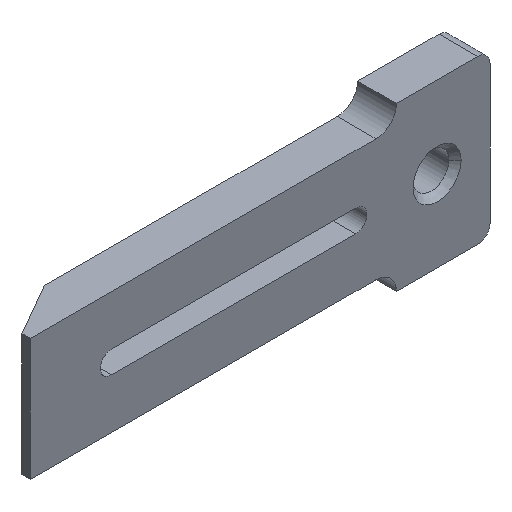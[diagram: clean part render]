
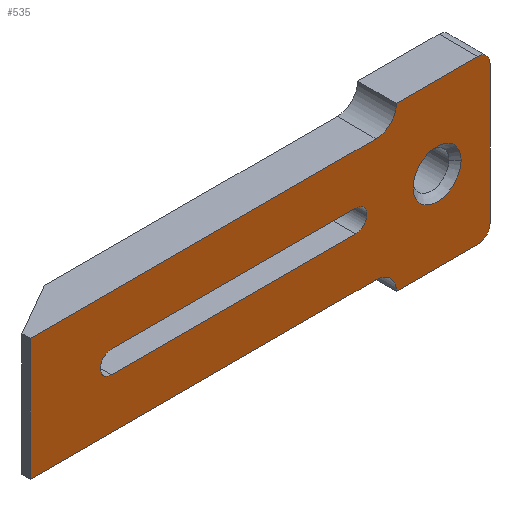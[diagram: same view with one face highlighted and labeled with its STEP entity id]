
A CAD part, isometric view. The second image highlights one B-rep face of the part: STEP entity #535.
In plain terms, the highlighted planar face has unit normal (0, -1, 0).
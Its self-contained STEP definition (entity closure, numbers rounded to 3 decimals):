
#16=CARTESIAN_POINT('',(20.,0.,0.));
#17=DIRECTION('',(0.,-1.,0.));
#18=DIRECTION('',(0.,0.,1.));
#19=AXIS2_PLACEMENT_3D('',#16,#17,#18);
#25=DIRECTION('',(1.,0.,0.));
#26=VECTOR('',#25,60.);
#27=CARTESIAN_POINT('',(20.,0.,-2.75));
#28=LINE('',#27,#26);
#32=CARTESIAN_POINT('',(80.,0.,0.));
#33=DIRECTION('',(0.,-1.,0.));
#34=DIRECTION('',(0.,0.,-1.));
#35=AXIS2_PLACEMENT_3D('',#32,#33,#34);
#40=DIRECTION('',(-1.,0.,0.));
#41=VECTOR('',#40,60.);
#42=CARTESIAN_POINT('',(80.,0.,2.75));
#43=LINE('',#42,#41);
#47=CARTESIAN_POINT('',(110.,0.,17.));
#48=DIRECTION('',(0.,-1.,0.));
#49=DIRECTION('',(1.,0.,0.));
#50=AXIS2_PLACEMENT_3D('',#47,#48,#49);
#55=CARTESIAN_POINT('',(110.,0.,-17.));
#56=DIRECTION('',(0.,-1.,0.));
#57=DIRECTION('',(0.,0.,-1.));
#58=AXIS2_PLACEMENT_3D('',#55,#56,#57);
#63=DIRECTION('',(-1.,0.,0.));
#64=VECTOR('',#63,20.);
#65=CARTESIAN_POINT('',(110.,0.,-20.));
#66=LINE('',#65,#64);
#70=DIRECTION('',(-1.,0.,0.));
#71=VECTOR('',#70,85.);
#72=CARTESIAN_POINT('',(85.,0.,-15.));
#73=LINE('',#72,#71);
#77=DIRECTION('',(0.,0.,1.));
#78=VECTOR('',#77,30.);
#79=CARTESIAN_POINT('',(0.,0.,-15.));
#80=LINE('',#79,#78);
#84=DIRECTION('',(1.,0.,0.));
#85=VECTOR('',#84,85.);
#86=CARTESIAN_POINT('',(0.,0.,15.));
#87=LINE('',#86,#85);
#91=DIRECTION('',(-1.,0.,0.));
#92=VECTOR('',#91,20.);
#93=CARTESIAN_POINT('',(110.,0.,20.));
#94=LINE('',#93,#92);
#98=CARTESIAN_POINT('',(100.,0.,0.));
#99=DIRECTION('',(0.,1.,0.));
#100=DIRECTION('',(1.,0.,0.));
#101=AXIS2_PLACEMENT_3D('',#98,#99,#100);
#106=CARTESIAN_POINT('',(100.,0.,0.));
#107=DIRECTION('',(0.,1.,0.));
#108=DIRECTION('',(-1.,0.,0.));
#109=AXIS2_PLACEMENT_3D('',#106,#107,#108);
#304=DIRECTION('',(0.,0.,1.));
#305=VECTOR('',#304,34.);
#306=CARTESIAN_POINT('',(113.,0.,-17.));
#307=LINE('',#306,#305);
#325=CARTESIAN_POINT('',(85.,0.,-20.));
#326=DIRECTION('',(0.,1.,0.));
#327=DIRECTION('',(0.,0.,1.));
#328=AXIS2_PLACEMENT_3D('',#325,#326,#327);
#384=CARTESIAN_POINT('',(85.,0.,20.));
#385=DIRECTION('',(0.,1.,0.));
#386=DIRECTION('',(1.,0.,0.));
#387=AXIS2_PLACEMENT_3D('',#384,#385,#386);
#420=CARTESIAN_POINT('',(0.,0.,-15.));
#421=CARTESIAN_POINT('',(0.,0.,15.));
#422=VERTEX_POINT('',#420);
#423=VERTEX_POINT('',#421);
#432=CARTESIAN_POINT('',(20.,0.,2.75));
#433=CARTESIAN_POINT('',(20.,0.,-2.75));
#434=VERTEX_POINT('',#432);
#435=VERTEX_POINT('',#433);
#436=CARTESIAN_POINT('',(80.,0.,-2.75));
#437=VERTEX_POINT('',#436);
#438=CARTESIAN_POINT('',(80.,0.,2.75));
#439=VERTEX_POINT('',#438);
#453=CARTESIAN_POINT('',(85.,0.,15.));
#455=VERTEX_POINT('',#453);
#456=CARTESIAN_POINT('',(85.,0.,-15.));
#458=VERTEX_POINT('',#456);
#462=CARTESIAN_POINT('',(90.,0.,20.));
#463=VERTEX_POINT('',#462);
#464=CARTESIAN_POINT('',(90.,0.,-20.));
#465=VERTEX_POINT('',#464);
#472=CARTESIAN_POINT('',(113.,0.,17.));
#473=VERTEX_POINT('',#472);
#474=CARTESIAN_POINT('',(110.,0.,20.));
#475=VERTEX_POINT('',#474);
#476=CARTESIAN_POINT('',(110.,0.,-20.));
#477=CARTESIAN_POINT('',(113.,0.,-17.));
#478=VERTEX_POINT('',#476);
#479=VERTEX_POINT('',#477);
#484=CARTESIAN_POINT('',(105.9,0.,0.));
#485=CARTESIAN_POINT('',(94.1,0.,0.));
#486=VERTEX_POINT('',#484);
#487=VERTEX_POINT('',#485);
#492=CARTESIAN_POINT('',(0.,0.,0.));
#493=DIRECTION('',(0.,1.,0.));
#494=DIRECTION('',(1.,0.,0.));
#495=AXIS2_PLACEMENT_3D('',#492,#493,#494);
#496=PLANE('',#495);
#498=ORIENTED_EDGE('',*,*,#497,.F.);
#500=ORIENTED_EDGE('',*,*,#499,.F.);
#502=ORIENTED_EDGE('',*,*,#501,.F.);
#504=ORIENTED_EDGE('',*,*,#503,.T.);
#506=ORIENTED_EDGE('',*,*,#505,.F.);
#508=ORIENTED_EDGE('',*,*,#507,.T.);
#510=ORIENTED_EDGE('',*,*,#509,.T.);
#512=ORIENTED_EDGE('',*,*,#511,.T.);
#514=ORIENTED_EDGE('',*,*,#513,.F.);
#516=ORIENTED_EDGE('',*,*,#515,.F.);
#517=EDGE_LOOP('',(#498,#500,#502,#504,#506,#508,#510,#512,#514,#516));
#518=FACE_OUTER_BOUND('',#517,.F.);
#520=ORIENTED_EDGE('',*,*,#519,.T.);
#522=ORIENTED_EDGE('',*,*,#521,.T.);
#524=ORIENTED_EDGE('',*,*,#523,.T.);
#526=ORIENTED_EDGE('',*,*,#525,.T.);
#527=EDGE_LOOP('',(#520,#522,#524,#526));
#528=FACE_BOUND('',#527,.F.);
#530=ORIENTED_EDGE('',*,*,#529,.F.);
#532=ORIENTED_EDGE('',*,*,#531,.F.);
#533=EDGE_LOOP('',(#530,#532));
#534=FACE_BOUND('',#533,.F.);
#535=ADVANCED_FACE('',(#518,#528,#534),#496,.F.);
#20=CIRCLE('',#19,2.75);
#36=CIRCLE('',#35,2.75);
#51=CIRCLE('',#50,3.);
#59=CIRCLE('',#58,3.);
#102=CIRCLE('',#101,5.9);
#110=CIRCLE('',#109,5.9);
#329=CIRCLE('',#328,5.);
#388=CIRCLE('',#387,5.);
#497=EDGE_CURVE('',#473,#475,#51,.T.);
#499=EDGE_CURVE('',#479,#473,#307,.T.);
#501=EDGE_CURVE('',#478,#479,#59,.T.);
#503=EDGE_CURVE('',#478,#465,#66,.T.);
#505=EDGE_CURVE('',#458,#465,#329,.T.);
#507=EDGE_CURVE('',#458,#422,#73,.T.);
#509=EDGE_CURVE('',#422,#423,#80,.T.);
#511=EDGE_CURVE('',#423,#455,#87,.T.);
#513=EDGE_CURVE('',#463,#455,#388,.T.);
#515=EDGE_CURVE('',#475,#463,#94,.T.);
#519=EDGE_CURVE('',#434,#435,#20,.T.);
#521=EDGE_CURVE('',#435,#437,#28,.T.);
#523=EDGE_CURVE('',#437,#439,#36,.T.);
#525=EDGE_CURVE('',#439,#434,#43,.T.);
#529=EDGE_CURVE('',#486,#487,#102,.T.);
#531=EDGE_CURVE('',#487,#486,#110,.T.);
